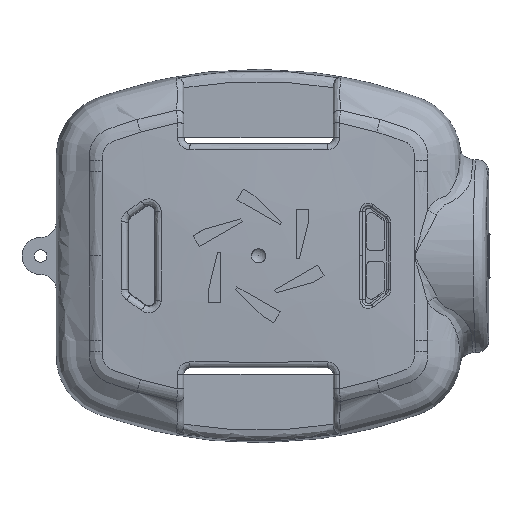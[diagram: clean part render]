
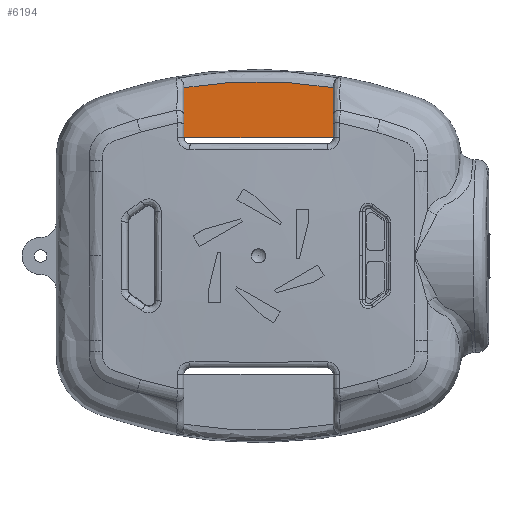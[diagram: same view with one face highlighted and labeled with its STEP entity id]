
A CAD part, top view. The second image highlights one B-rep face of the part: STEP entity #6194.
In plain terms, the highlighted planar face has unit normal (0, 0, 1).
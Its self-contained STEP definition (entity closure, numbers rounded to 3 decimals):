
#3200=B_SPLINE_CURVE_WITH_KNOTS('',3,(#59111,#59112,#59113,#59114),
 .UNSPECIFIED.,.F.,.F.,(4,4),(0.,1.),.UNSPECIFIED.);
#6194=ADVANCED_FACE('',(#8358),#7096,.T.);
#7096=PLANE('',#28800);
#8358=FACE_OUTER_BOUND('',#9924,.T.);
#9924=EDGE_LOOP('',(#16894,#16895,#16896,#16897));
#16894=ORIENTED_EDGE('',*,*,#23456,.T.);
#16895=ORIENTED_EDGE('',*,*,#23457,.F.);
#16896=ORIENTED_EDGE('',*,*,#23458,.F.);
#16897=ORIENTED_EDGE('',*,*,#23459,.F.);
#19868=VERTEX_POINT('',#59109);
#19869=VERTEX_POINT('',#59110);
#19870=VERTEX_POINT('',#59115);
#19871=VERTEX_POINT('',#59117);
#23456=EDGE_CURVE('',#19868,#19869,#25369,.T.);
#23457=EDGE_CURVE('',#19870,#19869,#3200,.T.);
#23458=EDGE_CURVE('',#19871,#19870,#25370,.T.);
#23459=EDGE_CURVE('',#19868,#19871,#25371,.T.);
#25369=LINE('',#59108,#27420);
#25370=LINE('',#59116,#27421);
#25371=LINE('',#59118,#27422);
#27420=VECTOR('',#33472,1.);
#27421=VECTOR('',#33473,1.);
#27422=VECTOR('',#33474,1.);
#28800=AXIS2_PLACEMENT_3D('',#59119,#33475,#33476);
#33472=DIRECTION('',(0.,1.,0.));
#33473=DIRECTION('',(0.,1.,0.));
#33474=DIRECTION('',(-1.,0.,0.));
#33475=DIRECTION('',(0.,0.,1.));
#33476=DIRECTION('',(-1.,0.,0.));
#59108=CARTESIAN_POINT('',(12.,0.,13.172));
#59109=CARTESIAN_POINT('',(12.,19.,13.172));
#59110=CARTESIAN_POINT('',(12.,27.045,13.172));
#59111=CARTESIAN_POINT('',(-12.,27.045,13.172));
#59112=CARTESIAN_POINT('',(-4.059,28.368,13.172));
#59113=CARTESIAN_POINT('',(4.059,28.368,13.172));
#59114=CARTESIAN_POINT('',(12.,27.045,13.172));
#59115=CARTESIAN_POINT('',(-12.,27.045,13.172));
#59116=CARTESIAN_POINT('',(-12.,42.667,13.172));
#59117=CARTESIAN_POINT('',(-12.,19.,13.172));
#59118=CARTESIAN_POINT('',(-12.,19.,13.172));
#59119=CARTESIAN_POINT('',(0.,0.,13.172));
